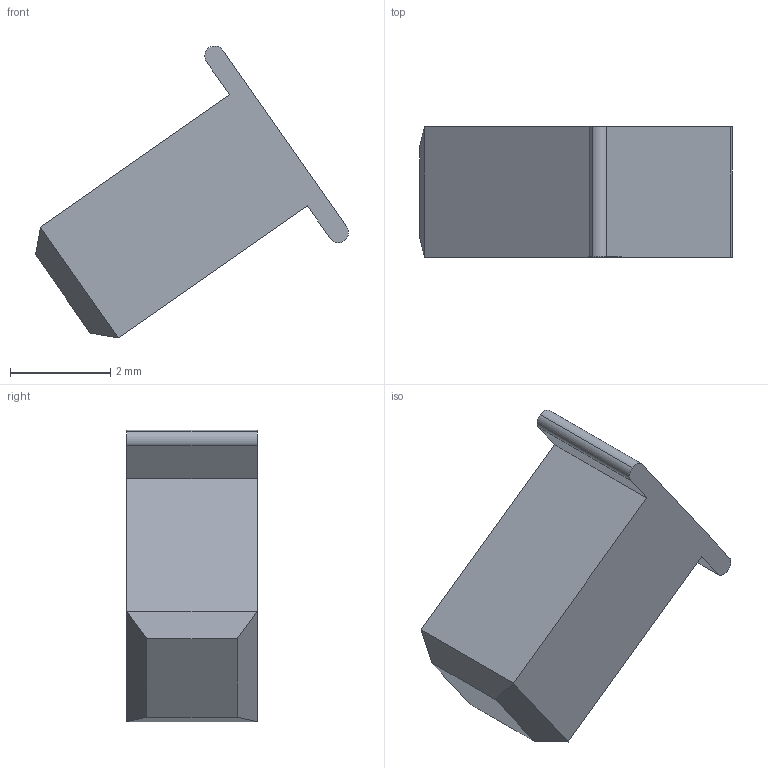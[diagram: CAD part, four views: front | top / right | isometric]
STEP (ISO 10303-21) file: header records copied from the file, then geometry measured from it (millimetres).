
FILE_DESCRIPTION (( 'STEP AP214' ), '1' );
FILE_NAME ('Part4^Clock prototype.STEP', '2026-05-30T07:48:50', ( '' ), ( '' ), 'SwSTEP 2.0', 'SolidWorks 2026', '' );
FILE_SCHEMA (( 'AUTOMOTIVE_DESIGN' ));
Length unit declared in the file: millimetre
Products named in the file (1): Part4^Clock prototype
Bounding box: 6.24 x 2.6 x 5.82 mm (x, y, z)
Volume: 39.1 mm3; surface area: 79.6 mm2
Topology: 1 solids, 1 shells, 17 faces, 41 edges, 26 vertices
Faces by surface type: plane 12, cylinder 5
Entity records: 516 total; most frequent: DIRECTION 87, CARTESIAN_POINT 85, ORIENTED_EDGE 82, EDGE_CURVE 41, VECTOR 31, LINE 31, AXIS2_PLACEMENT_3D 28, VERTEX_POINT 26
